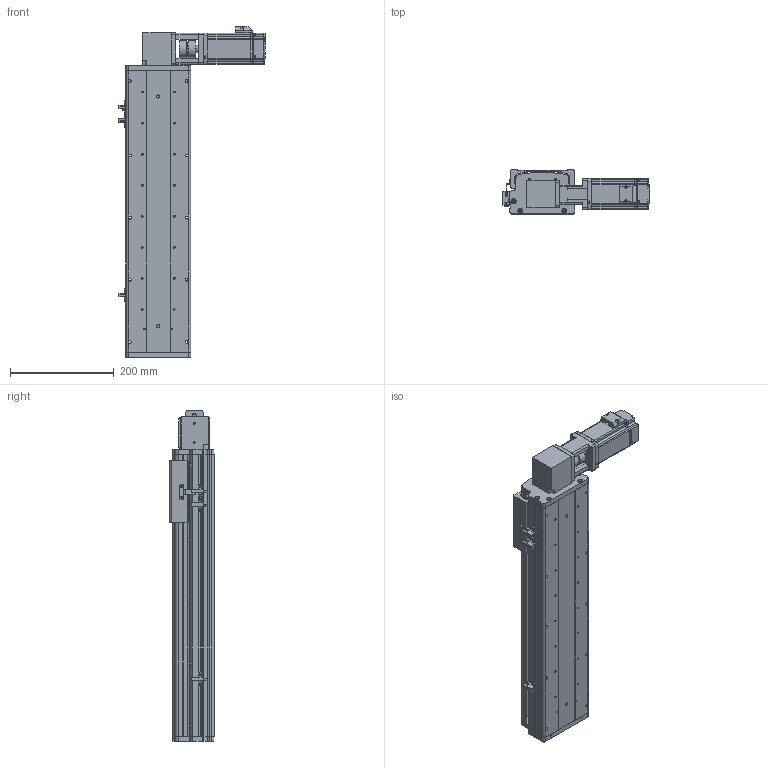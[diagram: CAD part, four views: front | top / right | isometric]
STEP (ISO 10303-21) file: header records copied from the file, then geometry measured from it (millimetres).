
FILE_DESCRIPTION (( 'STEP AP214' ), '1' );
FILE_NAME ('KSD125B-S350-MRT-CM.STEP', '2017-10-21T06:49:14', ( '微软用户' ), ( '微软中国' ), 'SwSTEP 2.0', 'SolidWorks 2014', '' );
FILE_SCHEMA (( 'AUTOMOTIVE_DESIGN' ));
Length unit declared in the file: millimetre
Products named in the file (16): 125模组350行程同步带-底板; MHMD042G1CA_2_03; KSD125模组同步带-防撞垫2; CS-34X32-10X14; 100遵鎮湛假蚾啣1 ; 覜茼え68遵圉猾敕; U倰嫖萇假蚾璃; U倰嫖萇EEㄜSX672; KSD125模组同步带-防撞垫1; 100宽安装板同步带带电机座400W,86; 前端板-125宽模组同步带; 125模组同步带-尾端板1; KSD125模组同步带-滑动座1; KSD125B-S350-MRT-CM; 100宽马达安装板同步带左; KSD125模组350行程同步带-防尘盖
Assembly tree (19 placements, depth 2):
  KSD125B-S350-MRT-CM
    KSD125模组同步带-滑动座1
    125模组同步带-尾端板1
    前端板-125宽模组同步带
    100宽安装板同步带带电机座400W,86
    KSD125模组同步带-防撞垫1
    U倰嫖萇EEㄜSX672  x3
    U倰嫖萇假蚾璃  x3
    覜茼え68遵圉猾敕
    100遵鎮湛假蚾啣1 
    CS-34X32-10X14
    KSD125模组同步带-防撞垫2
    MHMD042G1CA_2_03
    125模组350行程同步带-底板
    KSD125模组350行程同步带-防尘盖
    100宽马达安装板同步带左
Bounding box: 282.7 x 86 x 639 mm (x, y, z)
Volume: 2174653.3 mm3; surface area: 740881.2 mm2
Topology: 18 solids, 21 shells, 1620 faces, 4636 edges, 3056 vertices
Faces by surface type: cylinder 821, plane 696, cone 81, bspline 22
Entity records: 56484 total; most frequent: CARTESIAN_POINT 11486, DIRECTION 8251, ORIENTED_EDGE 7792, EDGE_CURVE 3974, AXIS2_PLACEMENT_3D 3045, VERTEX_POINT 2648, VECTOR 2161, LINE 2161
